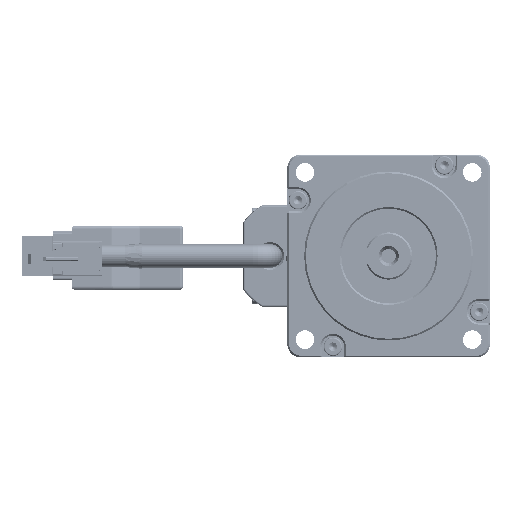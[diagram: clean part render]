
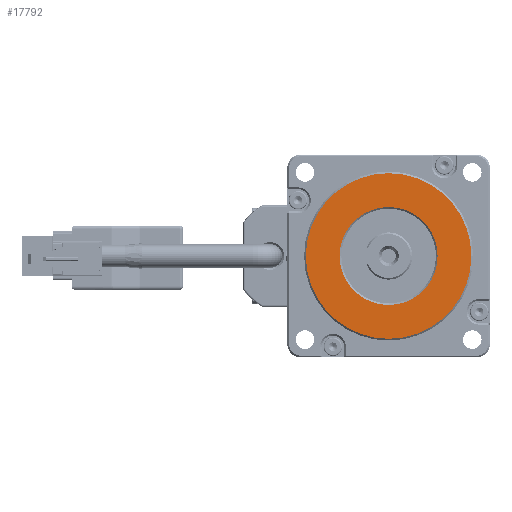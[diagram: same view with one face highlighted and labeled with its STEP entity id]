
A CAD part, left-side view. The second image highlights one B-rep face of the part: STEP entity #17792.
In plain terms, the highlighted planar face has unit normal (-1, 0, 0).
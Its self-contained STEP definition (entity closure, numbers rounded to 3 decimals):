
#8128 = DIRECTION ( 'NONE',  ( 1., 0., 0. ) ) ;
#8767 = AXIS2_PLACEMENT_3D ( 'NONE', #51997, #132680, #63634 ) ;
#13788 = EDGE_CURVE ( 'NONE', #120604, #140989, #47729, .T. ) ;
#17792 = ADVANCED_FACE ( 'NONE', ( #41152, #129482 ), #62432, .F. ) ;
#19385 = VERTEX_POINT ( 'NONE', #87538 ) ;
#20199 = AXIS2_PLACEMENT_3D ( 'NONE', #77019, #8128, #88592 ) ;
#25859 = CARTESIAN_POINT ( 'NONE',  ( -5.4, 0., 0. ) ) ;
#26003 = AXIS2_PLACEMENT_3D ( 'NONE', #46809, #127443, #58396 ) ;
#34271 = EDGE_LOOP ( 'NONE', ( #38176, #140023 ) ) ;
#35502 = EDGE_CURVE ( 'NONE', #91136, #19385, #45919, .T. ) ;
#37434 = DIRECTION ( 'NONE',  ( 0., 0., -1. ) ) ;
#38176 = ORIENTED_EDGE ( 'NONE', *, *, #113573, .T. ) ;
#41152 = FACE_BOUND ( 'NONE', #105900, .T. ) ;
#41478 = AXIS2_PLACEMENT_3D ( 'NONE', #25859, #106396, #37434 ) ;
#43414 = CARTESIAN_POINT ( 'NONE',  ( -5.4, 0., -14.5 ) ) ;
#43691 = CARTESIAN_POINT ( 'NONE',  ( -5.4, 0., 24.5 ) ) ;
#45919 = CIRCLE ( 'NONE', #41478, 24.5 ) ;
#46809 = CARTESIAN_POINT ( 'NONE',  ( -5.4, 0., 0. ) ) ;
#47729 = CIRCLE ( 'NONE', #20199, 14.5 ) ;
#51997 = CARTESIAN_POINT ( 'NONE',  ( -5.4, 0., 0. ) ) ;
#58396 = DIRECTION ( 'NONE',  ( 0., 0., -1. ) ) ;
#62432 = PLANE ( 'NONE',  #104748 ) ;
#63634 = DIRECTION ( 'NONE',  ( 0., 0., -1. ) ) ;
#73973 = DIRECTION ( 'NONE',  ( 0., 0., -1. ) ) ;
#76507 = EDGE_CURVE ( 'NONE', #140989, #120604, #77684, .T. ) ;
#77019 = CARTESIAN_POINT ( 'NONE',  ( -5.4, 0., 0. ) ) ;
#77684 = CIRCLE ( 'NONE', #8767, 14.5 ) ;
#87538 = CARTESIAN_POINT ( 'NONE',  ( -5.4, 0., -24.5 ) ) ;
#88592 = DIRECTION ( 'NONE',  ( 0., 0., -1. ) ) ;
#91136 = VERTEX_POINT ( 'NONE', #43691 ) ;
#104109 = CIRCLE ( 'NONE', #26003, 24.5 ) ;
#104748 = AXIS2_PLACEMENT_3D ( 'NONE', #108283, #143079, #73973 ) ;
#105900 = EDGE_LOOP ( 'NONE', ( #117061, #142395 ) ) ;
#106396 = DIRECTION ( 'NONE',  ( -1., 0., 0. ) ) ;
#108283 = CARTESIAN_POINT ( 'NONE',  ( -5.4, 0., 0. ) ) ;
#113573 = EDGE_CURVE ( 'NONE', #19385, #91136, #104109, .T. ) ;
#117061 = ORIENTED_EDGE ( 'NONE', *, *, #13788, .T. ) ;
#120604 = VERTEX_POINT ( 'NONE', #140555 ) ;
#127443 = DIRECTION ( 'NONE',  ( -1., 0., 0. ) ) ;
#129482 = FACE_OUTER_BOUND ( 'NONE', #34271, .T. ) ;
#132680 = DIRECTION ( 'NONE',  ( 1., 0., 0. ) ) ;
#140023 = ORIENTED_EDGE ( 'NONE', *, *, #35502, .T. ) ;
#140555 = CARTESIAN_POINT ( 'NONE',  ( -5.4, 0., 14.5 ) ) ;
#140989 = VERTEX_POINT ( 'NONE', #43414 ) ;
#142395 = ORIENTED_EDGE ( 'NONE', *, *, #76507, .T. ) ;
#143079 = DIRECTION ( 'NONE',  ( 1., 0., 0. ) ) ;
